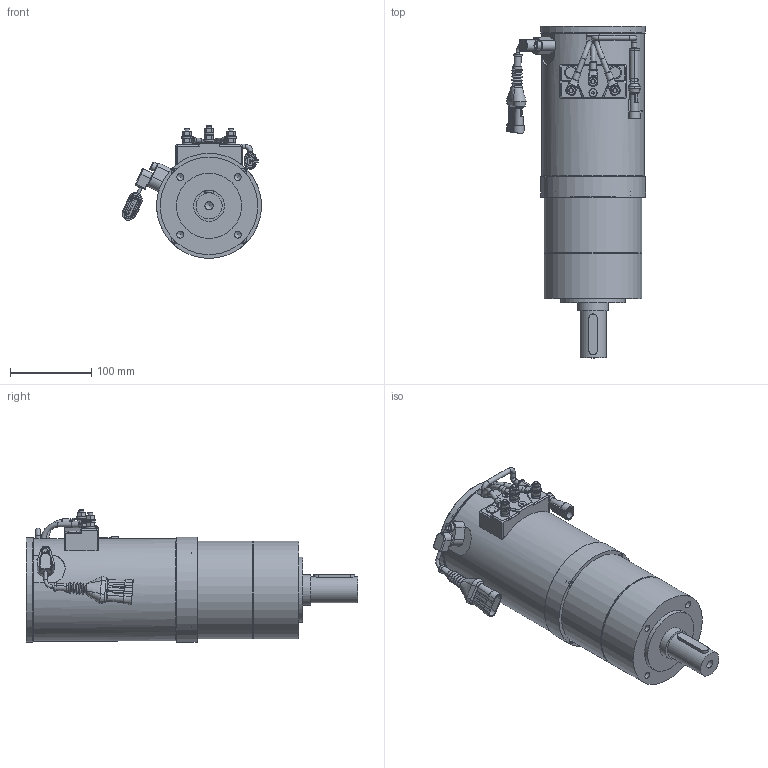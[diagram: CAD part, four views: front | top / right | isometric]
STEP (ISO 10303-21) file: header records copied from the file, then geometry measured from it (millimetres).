
FILE_DESCRIPTION(/* description */ (''),/* implementation_level */ '2;1');
FILE_NAME(/* name */ 'Z:\SITO WEB 2023\Motoriduttori\Motoriduttori AC\D.110 mm\ARD110.P120.stp',/* time_stamp */ '2023-09-19T16:52:50+02:00',/* author */ ('cad3'),/* organization */ (''),/* preprocessor_version */ 'ST-DEVELOPER v18.1',/* originating_system */ 'Autodesk Inventor 2022',/* authorisation */ '');
FILE_SCHEMA (('AUTOMOTIVE_DESIGN { 1 0 10303 214 3 1 1 }'));
Products named in the file (1): ARD110.P120
Bounding box: 170.82 x 407.6 x 163 mm (x, y, z)
Volume: 2422081.8 mm3; surface area: 351188.6 mm2
Topology: 3 solids, 25 shells, 2027 faces, 5253 edges, 3311 vertices
Faces by surface type: plane 1127, cylinder 519, cone 180, bspline 87, torus 68, sphere 46
Full cylindrical faces by diameter (mm): 4 x2, 4.134 x12, 4.917 x2, 5 x10, 5.5 x8, 6 x19, 6.2 x7, 6.5 x1, 8 x7, 8.376 x8, 8.5 x8, 9 x8, 9.64 x2, 10 x1, 10.106 x1, 12.4 x2, 13.9 x1, 14 x1, 15 x2, 15.2 x2, 20 x1, 22 x1, 32 x1, 35 x1, 36 x1, 38 x1, 47 x1, 60 x1, 72 x1, 76 x1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
Entity records: 68041 total; most frequent: CARTESIAN_POINT 16702, ORIENTED_EDGE 10384, DIRECTION 10166, EDGE_CURVE 5192, AXIS2_PLACEMENT_3D 3598, VERTEX_POINT 3311, LINE 2970, VECTOR 2970
